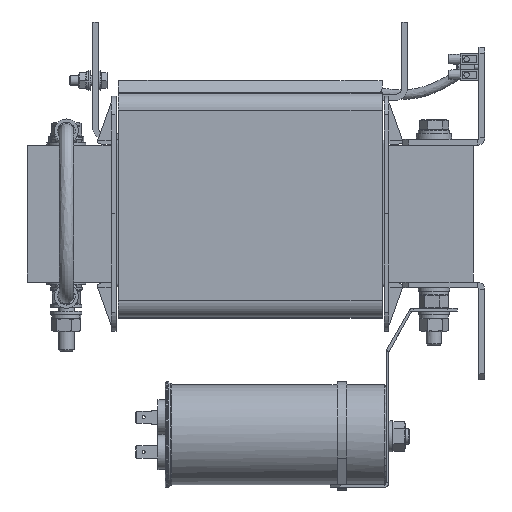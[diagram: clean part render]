
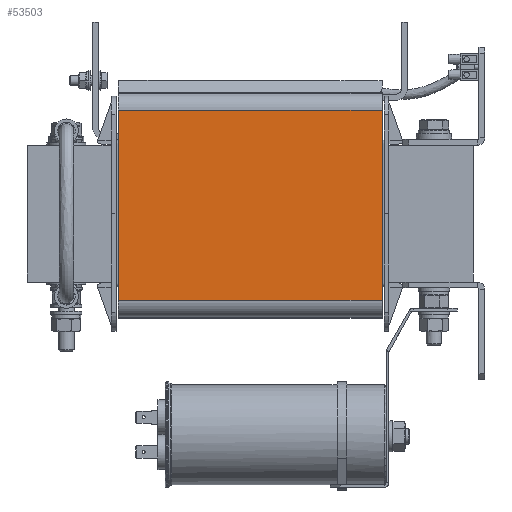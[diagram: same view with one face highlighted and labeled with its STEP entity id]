
A CAD part, left-side view. The second image highlights one B-rep face of the part: STEP entity #53503.
In plain terms, the highlighted planar face has unit normal (-1, 0, 0).
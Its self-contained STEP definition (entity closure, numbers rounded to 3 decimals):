
#2454=PLANE('',#57256);
#5157=FACE_OUTER_BOUND('',#8176,.T.);
#8176=EDGE_LOOP('',(#41212,#41213,#41214,#41215));
#12039=LINE('',#83512,#16852);
#12040=LINE('',#83518,#16853);
#12041=LINE('',#83519,#16854);
#12042=LINE('',#83520,#16855);
#16852=VECTOR('',#66056,10.);
#16853=VECTOR('',#66063,10.);
#16854=VECTOR('',#66064,10.);
#16855=VECTOR('',#66065,10.);
#23815=VERTEX_POINT('',#83510);
#23816=VERTEX_POINT('',#83511);
#23817=VERTEX_POINT('',#83516);
#23818=VERTEX_POINT('',#83517);
#30061=EDGE_CURVE('',#23815,#23816,#12039,.T.);
#30064=EDGE_CURVE('',#23817,#23818,#12040,.T.);
#30065=EDGE_CURVE('',#23815,#23817,#12041,.T.);
#30066=EDGE_CURVE('',#23818,#23816,#12042,.T.);
#41212=ORIENTED_EDGE('',*,*,#30064,.F.);
#41213=ORIENTED_EDGE('',*,*,#30065,.F.);
#41214=ORIENTED_EDGE('',*,*,#30061,.T.);
#41215=ORIENTED_EDGE('',*,*,#30066,.F.);
#53503=ADVANCED_FACE('',(#5157),#2454,.T.);
#57256=AXIS2_PLACEMENT_3D('',#83515,#66061,#66062);
#66056=DIRECTION('',(0.,-1.,0.));
#66061=DIRECTION('center_axis',(-1.,0.,0.));
#66062=DIRECTION('ref_axis',(0.,0.,1.));
#66063=DIRECTION('',(0.,-1.,0.));
#66064=DIRECTION('',(0.,0.,1.));
#66065=DIRECTION('',(0.,0.,-1.));
#83510=CARTESIAN_POINT('',(-139.,67.5,-44.404));
#83511=CARTESIAN_POINT('',(-139.,-67.5,-44.404));
#83512=CARTESIAN_POINT('',(-139.,0.,-44.404));
#83515=CARTESIAN_POINT('Origin',(-139.,0.,-44.404));
#83516=CARTESIAN_POINT('',(-139.,67.5,52.904));
#83517=CARTESIAN_POINT('',(-139.,-67.5,52.904));
#83518=CARTESIAN_POINT('',(-139.,0.,52.904));
#83519=CARTESIAN_POINT('',(-139.,67.5,52.904));
#83520=CARTESIAN_POINT('',(-139.,-67.5,52.904));
